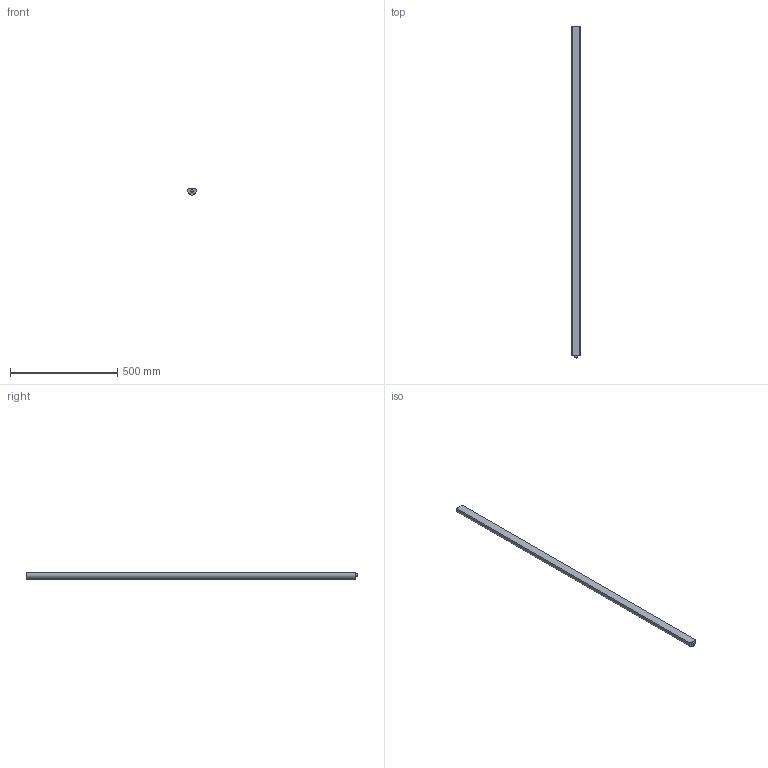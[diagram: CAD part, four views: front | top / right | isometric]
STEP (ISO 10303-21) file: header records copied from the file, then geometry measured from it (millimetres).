
FILE_DESCRIPTION(('FreeCAD Model'),'2;1');
FILE_NAME('Open CASCADE Shape Model','2024-04-10T10:59:49',(''),(''), 'Open CASCADE STEP processor 7.6','FreeCAD','Unknown');
FILE_SCHEMA(('AUTOMOTIVE_DESIGN { 1 0 10303 214 1 1 1 1 }'));
Length unit declared in the file: millimetre
Products named in the file (1): Körper
Bounding box: 39.96 x 1547 x 29 mm (x, y, z)
Volume: 1451168.4 mm3; surface area: 225787.5 mm2
Topology: 1 solids, 1 shells, 8 faces, 15 edges, 10 vertices
Faces by surface type: cylinder 4, plane 4
Full cylindrical faces by diameter (mm): 4.5 x2, 12 x1
Entity records: 237 total; most frequent: DIRECTION 41, CARTESIAN_POINT 34, ORIENTED_EDGE 30, AXIS2_PLACEMENT_3D 17, EDGE_CURVE 15, FACE_BOUND 13, EDGE_LOOP 13, VERTEX_POINT 10
